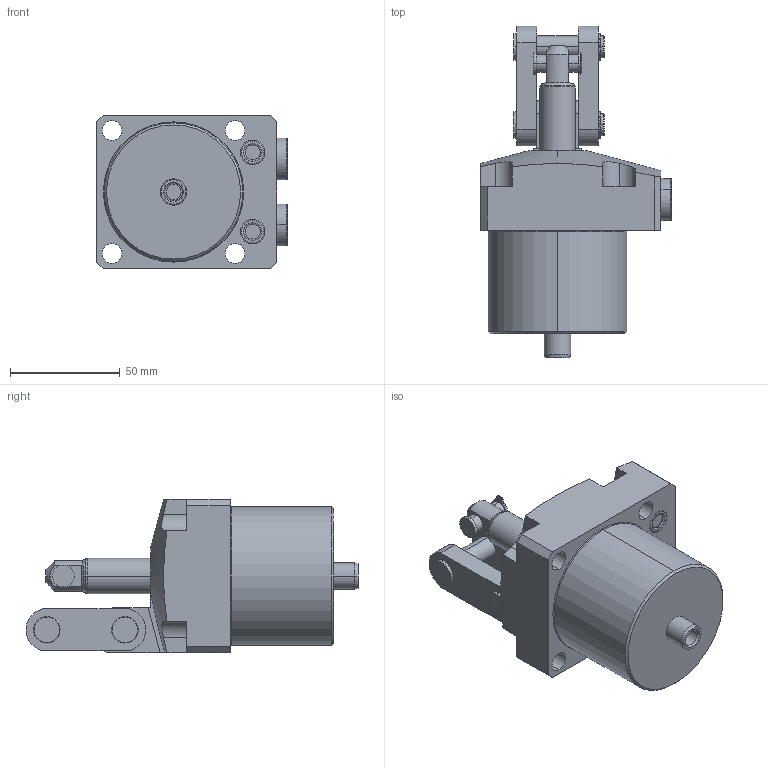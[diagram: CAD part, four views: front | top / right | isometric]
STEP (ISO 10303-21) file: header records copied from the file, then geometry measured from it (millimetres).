
FILE_DESCRIPTION(/* description */ (''),/* implementation_level */ '2;1');
FILE_NAME(/* name */ 'TPC10-RD.stp',/* time_stamp */ '2025-01-05T10:12:47+08:00',/* author */ (''),/* organization */ (''),/* preprocessor_version */ 'ST-DEVELOPER v16.7',/* originating_system */ 'SIEMENS PLM Software NX 12.0',/* authorisation */ '');
FILE_SCHEMA (('AUTOMOTIVE_DESIGN { 1 0 10303 214 3 1 1 1 }'));
Length unit declared in the file: millimetre
Products named in the file (5): TPC10-RD-04; TPC10-RD-03; TPC10-RD-02; TPC10-RD-01; TPC10-RD_stp
Assembly tree (5 placements, depth 2):
  TPC10-RD_stp
    TPC10-RD-01
    TPC10-RD-02
    TPC10-RD-03
    TPC10-RD-04  x2
Bounding box: 86.8 x 151 x 70 mm (x, y, z)
Volume: 353299.6 mm3; surface area: 56400.5 mm2
Topology: 5 solids, 7 shells, 296 faces, 696 edges, 442 vertices
Faces by surface type: cylinder 124, plane 114, torus 34, cone 24
Entity records: 8246 total; most frequent: CARTESIAN_POINT 1531, DIRECTION 1488, ORIENTED_EDGE 1300, EDGE_CURVE 650, AXIS2_PLACEMENT_3D 595, VERTEX_POINT 414, EDGE_LOOP 322, CIRCLE 315
